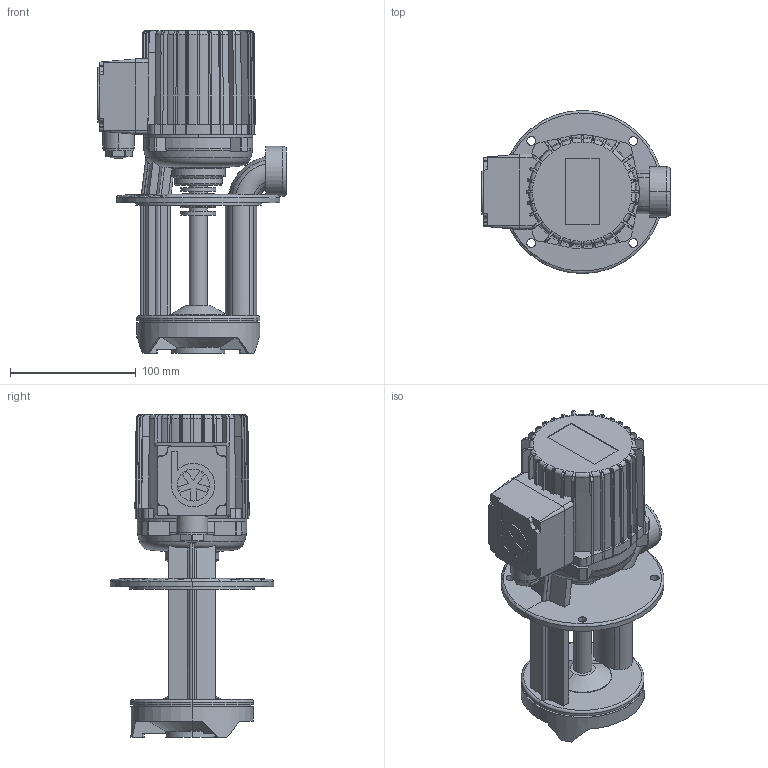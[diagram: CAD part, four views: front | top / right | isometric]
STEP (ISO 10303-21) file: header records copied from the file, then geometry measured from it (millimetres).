
FILE_DESCRIPTION(('no description'),'unknown implementation level');
FILE_NAME('TB40_120_17.stp',' ',('K. H. Brinkmann GmbH & Co. KG'),('CADClick - KiM GmbH - www.kimweb.de'),'unknown preprocess','ACIS','unknown authorization');
FILE_SCHEMA(('automotive_design'));
Length unit declared in the file: millimetre
Products named in the file (3): 1; 2; 3
Bounding box: 150 x 130 x 257 mm (x, y, z)
Volume: 1229538.6 mm3; surface area: 179932.9 mm2
Topology: 3 solids, 3 shells, 602 faces, 1605 edges, 1027 vertices
Faces by surface type: plane 287, cylinder 153, torus 87, cone 75
Entity records: 41009 total; most frequent: CARTESIAN_POINT 8203, STYLED_ITEM 3237, PRESENTATION_STYLE_ASSIGNMENT 3237, COLOUR_RGB 3237, ORIENTED_EDGE 3210, DIRECTION 3052, EDGE_CURVE 1605, CURVE_STYLE 1605
